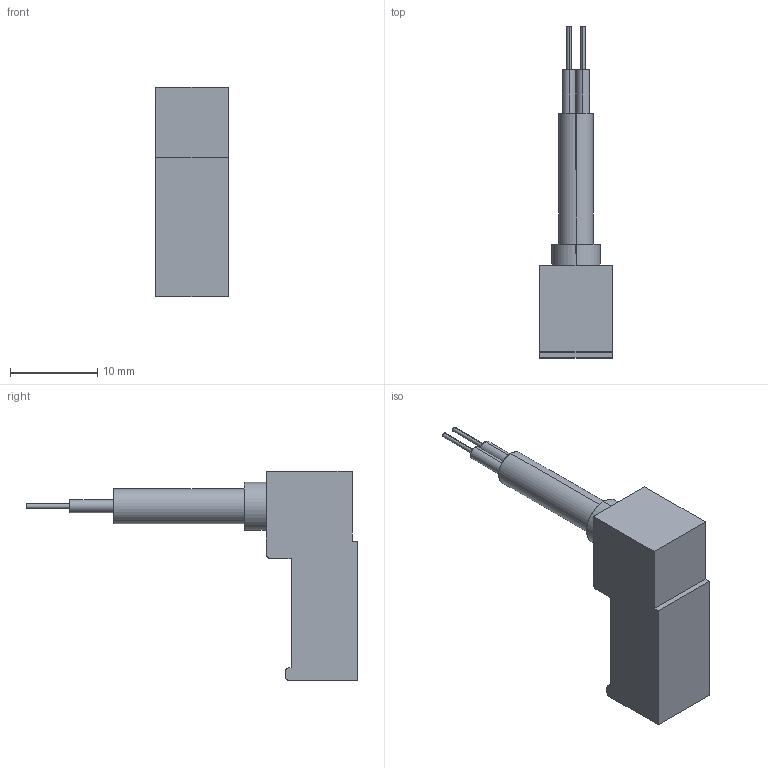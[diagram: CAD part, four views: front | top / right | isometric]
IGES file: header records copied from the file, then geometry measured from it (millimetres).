
Start section: SolidWorks IGES file using analytic representation for surfaces
Global section: file name: C:\Users\Toshiba\Desktop\MT-2(3)U.IGS; native system: SolidWorks 2014; preprocessor: SolidWorks 2014; author: Toshiba; date: 160621.090950; units: millimetre
Bounding box: 8.3 x 38 x 24 mm (x, y, z)
Surface area: 1288.1 mm2 (no closed solid volume)
Topology: 0 solids, 0 shells, 33 faces, 400 edges, 400 vertices
Faces by surface type: bspline 18, revolution 15
